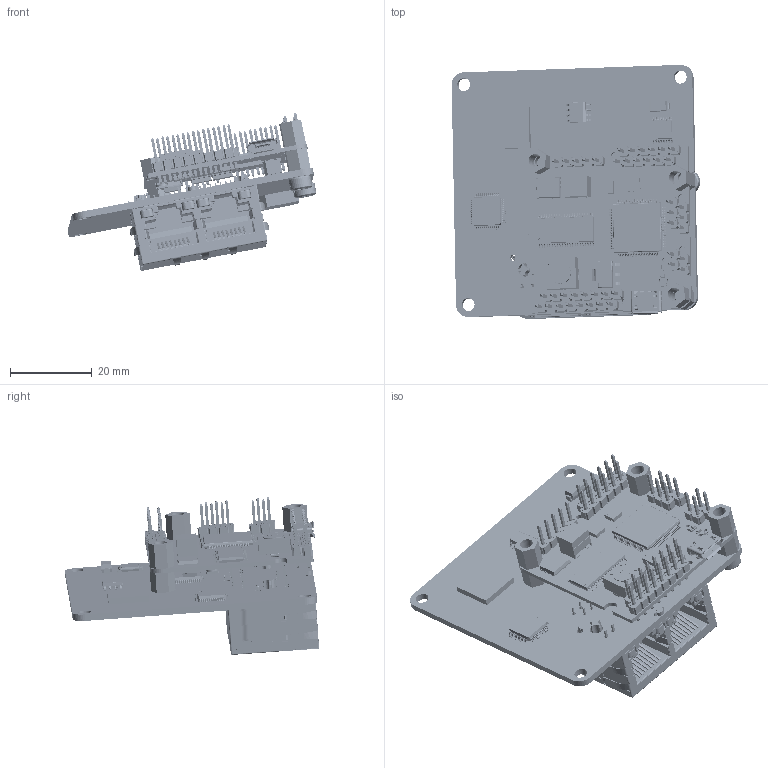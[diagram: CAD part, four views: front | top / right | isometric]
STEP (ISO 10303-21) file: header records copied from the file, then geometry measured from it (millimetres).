
FILE_DESCRIPTION (( 'STEP AP214' ), '1' );
FILE_NAME ('i032-01H1-Pinheader+EtherCAT.STEP', '2016-03-29T14:30:44', ( '' ), ( '' ), 'SwSTEP 2.0', 'SolidWorks 2016', '' );
FILE_SCHEMA (( 'AUTOMOTIVE_DESIGN' ));
Length unit declared in the file: millimetre
Products named in the file (17): M3ﾗ8 __; Spacer5mmfem; Spacer6mmfem; i032-01H1-Pinheader+EtherCAT; i021-03H1Board(NUDE); i032-01H1(PIN_HEADER_CONN)
Assembly tree (11 placements, depth 2):
  M3ﾗ8 __
  Spacer5mmfem
  Spacer5mmfem
  Spacer6mmfem
  i032-01H1-Pinheader+EtherCAT
    i021-03H1Board(NUDE)
    i032-01H1(PIN_HEADER_CONN)
    Spacer5mmfem  x3
    Spacer6mmfem  x3
    M3ﾗ8 __  x3
Bounding box: 60.89 x 62.2 x 38.64 mm (x, y, z)
Volume: 506.2 mm3; surface area: 30958 mm2
Topology: 6 solids, 1054 shells, 11789 faces, 32858 edges, 22499 vertices
Faces by surface type: plane 8208, cylinder 2579, bspline 946, cone 34, torus 20, sphere 2
Full cylindrical faces by diameter (mm): 0.3 x3, 0.4 x4, 0.41 x172, 0.443 x1, 0.527 x3, 0.6 x1, 0.7 x16, 0.754 x1, 0.8 x40, 0.9 x19, 1 x5, 1.1 x8, 1.5 x4, 1.63 x3, 3 x1, 3.2 x13, 3.25 x2, 5.2 x1, 5.25 x1
Entity records: 471790 total; most frequent: CARTESIAN_POINT 85682, ORIENTED_EDGE 57128, DIRECTION 55119, EDGE_CURVE 30834, VECTOR 24325, LINE 24325, VERTEX_POINT 21520, AXIS2_PLACEMENT_3D 15397
